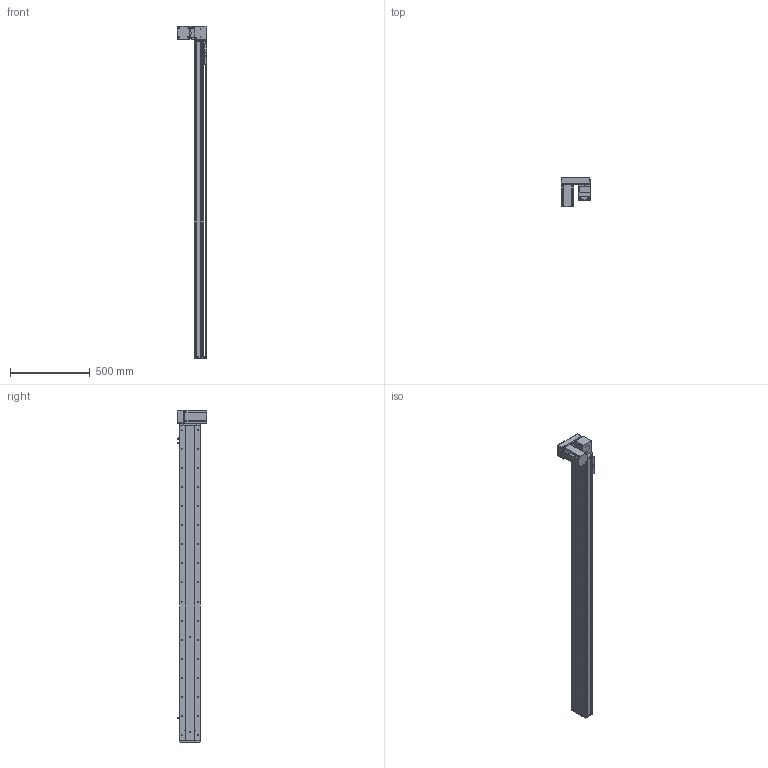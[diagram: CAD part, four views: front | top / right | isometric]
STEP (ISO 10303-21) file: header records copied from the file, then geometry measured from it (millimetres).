
FILE_DESCRIPTION (( 'STEP AP214' ), '1' );
FILE_NAME ('KSD130B-S1750-MRD-CM.STEP', '2019-11-16T01:59:09', ( '微软用户' ), ( '微软中国' ), 'SwSTEP 2.0', 'SolidWorks 2014', '' );
FILE_SCHEMA (( 'AUTOMOTIVE_DESIGN' ));
Length unit declared in the file: millimetre
Products named in the file (12): 130宽模组保护罩上下左右折-同步带; 台达ECMA－C20807AS伺服电机; 130宽模组马达安装板连板上下折丝杆同步带; 覜茼え100遵圉猾敕; U倰嫖萇EEㄜSX672; 130宽盖板半封闭同步带-1750行程; 130宽马达安装板同步带右-改镜向_默认<按加工>; 130宽马达安装板同步带半封闭; 130宽同步带安装座半封闭; 130宽端盖同步带半封闭; 130宽底板半封闭同步带-1750行程; KSD130B-S1750-MRD-CM
Assembly tree (13 placements, depth 2):
  KSD130B-S1750-MRD-CM
    130宽底板半封闭同步带-1750行程
    130宽端盖同步带半封闭
    130宽同步带安装座半封闭
    130宽马达安装板同步带半封闭
    130宽马达安装板同步带右-改镜向_默认<按加工>
    130宽盖板半封闭同步带-1750行程
    U倰嫖萇EEㄜSX672  x3
    覜茼え100遵圉猾敕
    130宽模组马达安装板连板上下折丝杆同步带
    台达ECMA－C20807AS伺服电机
    130宽模组保护罩上下左右折-同步带
Bounding box: 186 x 184.8 x 2083 mm (x, y, z)
Volume: 6988849.5 mm3; surface area: 1977570.6 mm2
Topology: 14 solids, 14 shells, 1727 faces, 5025 edges, 3181 vertices
Faces by surface type: cylinder 850, plane 650, cone 227
Entity records: 58827 total; most frequent: CARTESIAN_POINT 11362, DIRECTION 8871, ORIENTED_EDGE 8582, EDGE_CURVE 4291, AXIS2_PLACEMENT_3D 3270, VERTEX_POINT 2805, LINE 2331, VECTOR 2331
